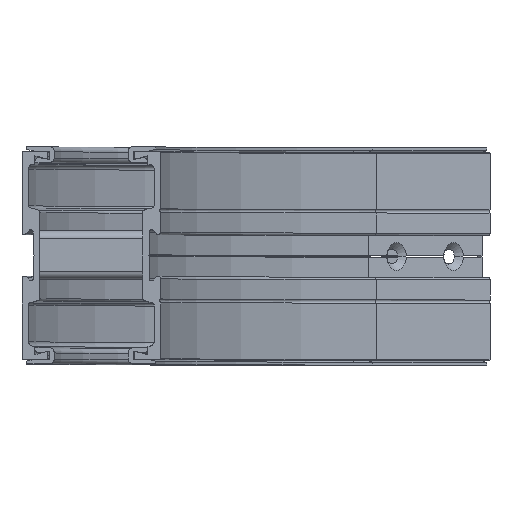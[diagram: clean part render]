
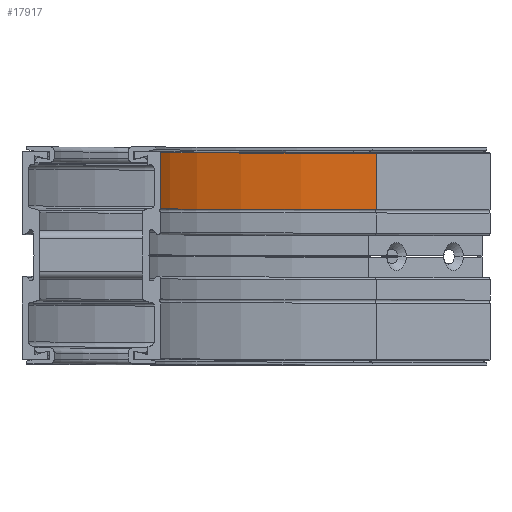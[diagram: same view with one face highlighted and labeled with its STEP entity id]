
A CAD part, top view. The second image highlights one B-rep face of the part: STEP entity #17917.
In plain terms, the highlighted cylindrical face has radius 457 mm (diameter 914 mm), a partial arc.
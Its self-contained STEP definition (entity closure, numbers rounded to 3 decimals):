
#564 = FACE_OUTER_BOUND ( 'NONE', #11762, .T. ) ;
#565 = CYLINDRICAL_SURFACE ( 'NONE', #7558, 457. ) ;
#3668 = DIRECTION ( 'NONE',  ( 0., 0., 1. ) ) ;
#3669 = DIRECTION ( 'NONE',  ( 0., 1., 0. ) ) ;
#3671 = CARTESIAN_POINT ( 'NONE',  ( 500., 0., -100. ) ) ;
#5960 = EDGE_CURVE ( 'NONE', #9786, #10300, #17064, .T. ) ;
#5961 = EDGE_CURVE ( 'NONE', #10300, #10302, #17068, .T. ) ;
#5962 = EDGE_CURVE ( 'NONE', #10267, #10302, #17067, .T. ) ;
#5964 = EDGE_CURVE ( 'NONE', #9786, #10267, #17071, .T. ) ;
#6696 = AXIS2_PLACEMENT_3D ( 'NONE', #13609, #13608, #13607 ) ;
#6700 = AXIS2_PLACEMENT_3D ( 'NONE', #13598, #13597, #13596 ) ;
#7558 = AXIS2_PLACEMENT_3D ( 'NONE', #3671, #3669, #3668 ) ;
#8312 = ORIENTED_EDGE ( 'NONE', *, *, #5964, .T. ) ;
#8314 = ORIENTED_EDGE ( 'NONE', *, *, #5961, .F. ) ;
#8315 = ORIENTED_EDGE ( 'NONE', *, *, #5962, .T. ) ;
#8317 = ORIENTED_EDGE ( 'NONE', *, *, #5960, .F. ) ;
#9786 = VERTEX_POINT ( 'NONE', #12206 ) ;
#10267 = VERTEX_POINT ( 'NONE', #12633 ) ;
#10300 = VERTEX_POINT ( 'NONE', #12593 ) ;
#10302 = VERTEX_POINT ( 'NONE', #12590 ) ;
#11762 = EDGE_LOOP ( 'NONE', ( #8312, #8315, #8314, #8317 ) ) ;
#12206 = CARTESIAN_POINT ( 'NONE',  ( 176.852, 64., -423.148 ) ) ;
#12590 = CARTESIAN_POINT ( 'NONE',  ( 43., 29.036, -100. ) ) ;
#12593 = CARTESIAN_POINT ( 'NONE',  ( 176.852, 29.036, -423.148 ) ) ;
#12633 = CARTESIAN_POINT ( 'NONE',  ( 43., 64., -100. ) ) ;
#13596 = DIRECTION ( 'NONE',  ( 0., 0., 1. ) ) ;
#13597 = DIRECTION ( 'NONE',  ( 0., 1., 0. ) ) ;
#13598 = CARTESIAN_POINT ( 'NONE',  ( 500., 64., -100. ) ) ;
#13604 = DIRECTION ( 'NONE',  ( 0., -1., 0. ) ) ;
#13606 = CARTESIAN_POINT ( 'NONE',  ( 43., 29.036, -100. ) ) ;
#13607 = DIRECTION ( 'NONE',  ( 0., 0., 1. ) ) ;
#13608 = DIRECTION ( 'NONE',  ( 0., 1., 0. ) ) ;
#13609 = CARTESIAN_POINT ( 'NONE',  ( 500., 29.036, -100. ) ) ;
#13611 = DIRECTION ( 'NONE',  ( 0., -1., 0. ) ) ;
#13613 = CARTESIAN_POINT ( 'NONE',  ( 176.852, 29.036, -423.148 ) ) ;
#17064 = LINE ( 'NONE', #13613, #17066 ) ;
#17066 = VECTOR ( 'NONE', #13611, 1000. ) ;
#17067 = LINE ( 'NONE', #13606, #17069 ) ;
#17068 = CIRCLE ( 'NONE', #6696, 457. ) ;
#17069 = VECTOR ( 'NONE', #13604, 1000. ) ;
#17071 = CIRCLE ( 'NONE', #6700, 457. ) ;
#17917 = ADVANCED_FACE ( 'NONE', ( #564 ), #565, .F. ) ;
